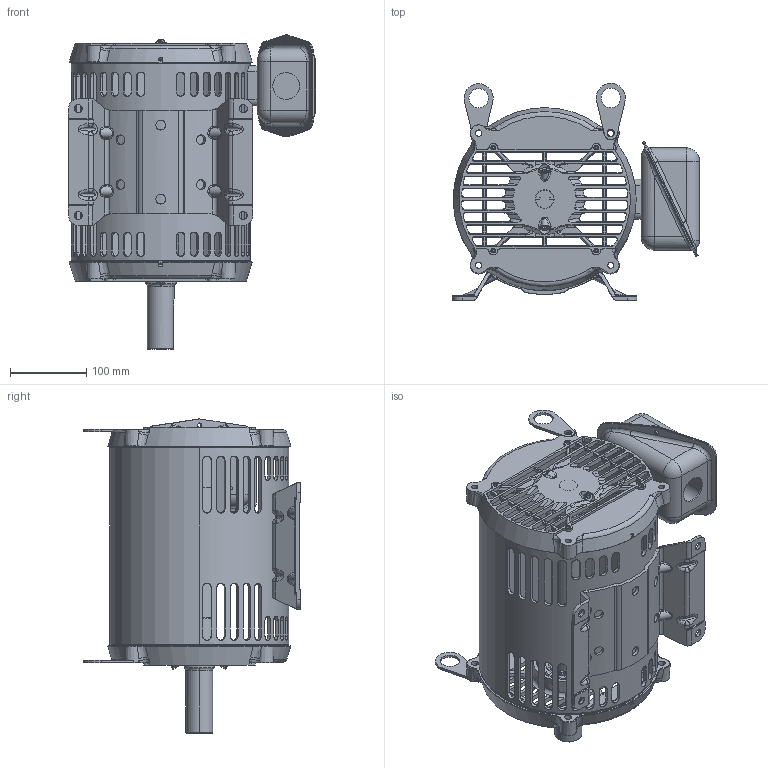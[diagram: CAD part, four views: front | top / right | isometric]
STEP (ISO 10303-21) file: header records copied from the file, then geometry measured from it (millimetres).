
FILE_DESCRIPTION((''),'2;1');
FILE_NAME('213_FULL_ASSY_ASM','2019-11-21T07:08:07',('EMD2341'),('Nidec Motor Corporation'),'CREO PARAMETRIC BY PTC INC, 2018300','CREO PARAMETRIC BY PTC INC, 2018300','');
FILE_SCHEMA(('CONFIG_CONTROL_DESIGN'));
Length unit declared in the file: inch
Products named in the file (16): 213_FRAME; 0391764-BKT_AF1; 0298010_AF1; 0391765_ASM; 0391891-BKT_AF1; 0298013_AF1; 0391892_ASM; 0345787; 0931014; 0774783; 0951821; 0390418; 0376890; 0398344; 0398343; 213_FULL_ASSY_ASM
Assembly tree (16 placements, depth 3):
  213_FULL_ASSY_ASM
    213_FRAME
    0391765_ASM
      0391764-BKT_AF1
      0298010_AF1
    0391892_ASM
      0391891-BKT_AF1
      0298013_AF1
    0345787
    0931014
    0774783
    0951821
    0390418
    0376890  x2
    0398344
    0398343
Bounding box: 323.09 x 283.72 x 410.69 mm (x, y, z)
Volume: 2144784.8 mm3; surface area: 960184.1 mm2
Topology: 18 solids, 18 shells, 2156 faces, 5908 edges, 3720 vertices
Faces by surface type: plane 663, cylinder 620, bspline 422, cone 303, torus 132, sphere 16
Entity records: 92835 total; most frequent: CARTESIAN_POINT 41505, ORIENTED_EDGE 11764, DIRECTION 9240, EDGE_CURVE 5882, VERTEX_POINT 3704, AXIS2_PLACEMENT_3D 3422, VECTOR 2396, LINE 2396
